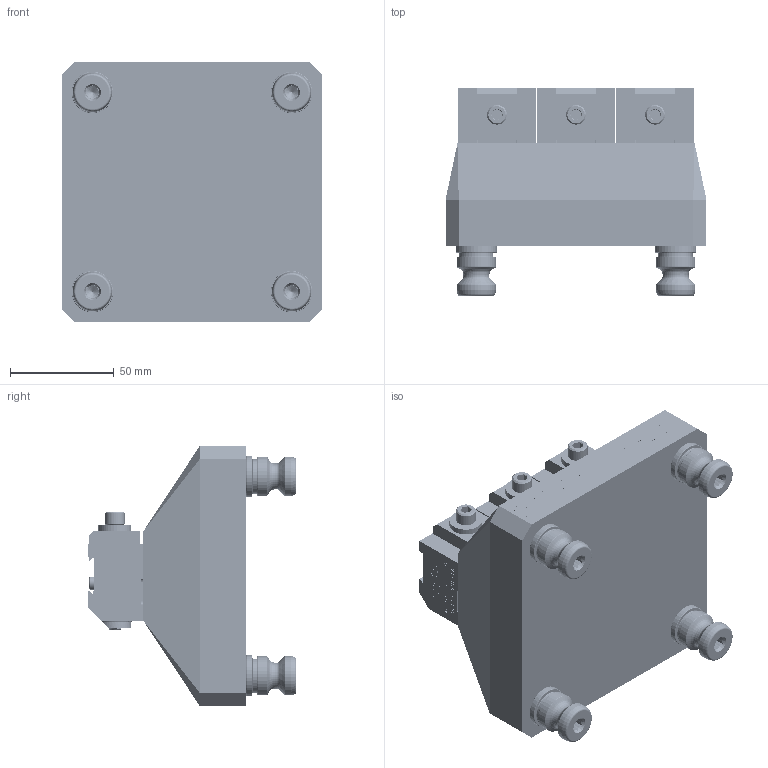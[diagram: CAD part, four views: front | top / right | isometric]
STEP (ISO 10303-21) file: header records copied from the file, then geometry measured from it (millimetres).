
FILE_DESCRIPTION (( 'STEP AP214' ), '1' );
FILE_NAME ('R96-3D115.STEP', '2018-01-29T17:45:13', ( '' ), ( '' ), 'SwSTEP 2.0', 'SolidWorks 2017', '' );
FILE_SCHEMA (( 'AUTOMOTIVE_DESIGN' ));
Length unit declared in the file: inch
Products named in the file (12): PS20F; HW.LCM110E01M; LP250_NO THREADS ; R96-3D1151; HW.73072_DEFAULT; HW.0250.FW_DEFAULT; D115-1; 91390A162_ALLOY STEEL CUP POINT SET SCREW_91390A162; D115; CDS25; R96-3D115
Assembly tree (18 placements, depth 3):
  R96-3D115
    R96-3D1151
    D115  x3
      D115-1
      LP250_NO THREADS 
      CDS25
      HW.0250.FW_DEFAULT
      HW.73072_DEFAULT
      HW.LCM110E01M
    PS20F  x4
      PS20F
      91390A162_ALLOY STEEL CUP POINT SET SCREW_91390A162
Bounding box: 125.73 x 100.2 x 125.73 mm (x, y, z)
Volume: 738831.2 mm3; surface area: 118027.6 mm2
Topology: 33 solids, 33 shells, 5337 faces, 14181 edges, 9243 vertices
Faces by surface type: plane 2630, bspline 1445, cylinder 813, cone 321, torus 128
Entity records: 112910 total; most frequent: CARTESIAN_POINT 46059, ORIENTED_EDGE 10992, DIRECTION 7367, EDGE_CURVE 5496, VERTEX_POINT 3612, VECTOR 3537, LINE 3537, EDGE_LOOP 2276
